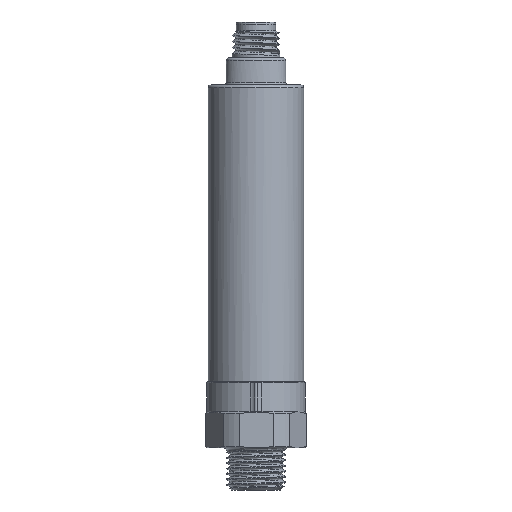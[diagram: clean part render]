
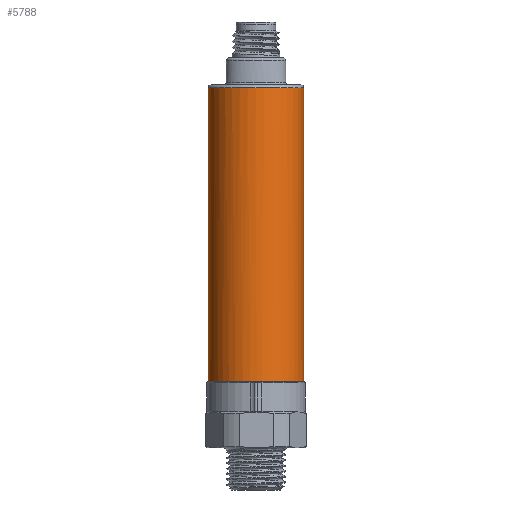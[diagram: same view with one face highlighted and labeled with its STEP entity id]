
A CAD part, front view. The second image highlights one B-rep face of the part: STEP entity #5788.
In plain terms, the highlighted cylindrical face has radius 8 mm (diameter 16 mm), a partial arc.
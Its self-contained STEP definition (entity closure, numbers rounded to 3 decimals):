
#164 = ORIENTED_EDGE ( 'NONE', *, *, #16945, .T. ) ;
#403 = VERTEX_POINT ( 'NONE', #15709 ) ;
#913 = DIRECTION ( 'NONE',  ( 0., 0., -1. ) ) ;
#916 = CARTESIAN_POINT ( 'NONE',  ( 8., 0., 2.5 ) ) ;
#987 = DIRECTION ( 'NONE',  ( 0., 0., -1. ) ) ;
#1255 = DIRECTION ( 'NONE',  ( 0., 0., 1. ) ) ;
#1323 = ORIENTED_EDGE ( 'NONE', *, *, #9717, .T. ) ;
#1394 = VERTEX_POINT ( 'NONE', #5515 ) ;
#1437 = CIRCLE ( 'NONE', #14735, 8. ) ;
#1589 = EDGE_CURVE ( 'NONE', #6901, #8266, #10037, .T. ) ;
#1830 = FACE_OUTER_BOUND ( 'NONE', #7667, .T. ) ;
#2059 = CARTESIAN_POINT ( 'NONE',  ( 8., 0., 2.6 ) ) ;
#2154 = EDGE_CURVE ( 'NONE', #12912, #2658, #10245, .T. ) ;
#2228 = CARTESIAN_POINT ( 'NONE',  ( 0.97, -7.941, 2.6 ) ) ;
#2337 = LINE ( 'NONE', #5951, #15654 ) ;
#2446 = CARTESIAN_POINT ( 'NONE',  ( 8., 0., 57. ) ) ;
#2495 = EDGE_CURVE ( 'NONE', #15980, #1394, #2337, .T. ) ;
#2511 = VERTEX_POINT ( 'NONE', #3365 ) ;
#2658 = VERTEX_POINT ( 'NONE', #2228 ) ;
#2699 = VERTEX_POINT ( 'NONE', #12950 ) ;
#2969 = ORIENTED_EDGE ( 'NONE', *, *, #2154, .T. ) ;
#2992 = AXIS2_PLACEMENT_3D ( 'NONE', #11661, #3679, #12998 ) ;
#3284 = CIRCLE ( 'NONE', #5505, 8. ) ;
#3365 = CARTESIAN_POINT ( 'NONE',  ( 8., 0., 7.4 ) ) ;
#3569 = EDGE_CURVE ( 'NONE', #12912, #5081, #13384, .T. ) ;
#3679 = DIRECTION ( 'NONE',  ( 0., 0., 1. ) ) ;
#3961 = DIRECTION ( 'NONE',  ( 0., 0., 1. ) ) ;
#4511 = ORIENTED_EDGE ( 'NONE', *, *, #3569, .F. ) ;
#4531 = DIRECTION ( 'NONE',  ( 0., 0., -1. ) ) ;
#4609 = DIRECTION ( 'NONE',  ( 0., 0., 1. ) ) ;
#4671 = VERTEX_POINT ( 'NONE', #12262 ) ;
#4732 = EDGE_CURVE ( 'NONE', #14654, #2511, #1437, .T. ) ;
#4786 = ORIENTED_EDGE ( 'NONE', *, *, #12344, .T. ) ;
#4828 = ORIENTED_EDGE ( 'NONE', *, *, #15813, .T. ) ;
#4880 = CIRCLE ( 'NONE', #2992, 8. ) ;
#5081 = VERTEX_POINT ( 'NONE', #916 ) ;
#5270 = CARTESIAN_POINT ( 'NONE',  ( 0., 0., 2.5 ) ) ;
#5362 = CARTESIAN_POINT ( 'NONE',  ( 0., 0., 2.5 ) ) ;
#5505 = AXIS2_PLACEMENT_3D ( 'NONE', #14179, #6186, #15504 ) ;
#5509 = AXIS2_PLACEMENT_3D ( 'NONE', #11563, #15616, #6296 ) ;
#5515 = CARTESIAN_POINT ( 'NONE',  ( -8., 0., 7.4 ) ) ;
#5788 = ADVANCED_FACE ( 'NONE', ( #1830 ), #8562, .T. ) ;
#5951 = CARTESIAN_POINT ( 'NONE',  ( -8., 0., 57. ) ) ;
#6143 = CIRCLE ( 'NONE', #7497, 8. ) ;
#6186 = DIRECTION ( 'NONE',  ( 0., 0., 1. ) ) ;
#6296 = DIRECTION ( 'NONE',  ( -1., 0., 0. ) ) ;
#6341 = ORIENTED_EDGE ( 'NONE', *, *, #7275, .T. ) ;
#6454 = DIRECTION ( 'NONE',  ( 0., 0., -1. ) ) ;
#6608 = DIRECTION ( 'NONE',  ( -1., 0., 0. ) ) ;
#6704 = DIRECTION ( 'NONE',  ( -1., 0., 0. ) ) ;
#6901 = VERTEX_POINT ( 'NONE', #9746 ) ;
#7200 = CIRCLE ( 'NONE', #10763, 8. ) ;
#7275 = EDGE_CURVE ( 'NONE', #403, #5081, #17225, .T. ) ;
#7307 = CARTESIAN_POINT ( 'NONE',  ( 8., 0., 57. ) ) ;
#7358 = DIRECTION ( 'NONE',  ( 0., 0., -1. ) ) ;
#7497 = AXIS2_PLACEMENT_3D ( 'NONE', #8931, #987, #10284 ) ;
#7667 = EDGE_LOOP ( 'NONE', ( #10344, #164, #14195, #4828, #14334, #9985, #7685, #4786, #11276, #1323, #6341, #4511, #2969, #12662, #9522 ) ) ;
#7685 = ORIENTED_EDGE ( 'NONE', *, *, #8273, .T. ) ;
#8034 = DIRECTION ( 'NONE',  ( 0., 0., -1. ) ) ;
#8055 = DIRECTION ( 'NONE',  ( -1., 0., 0. ) ) ;
#8113 = CARTESIAN_POINT ( 'NONE',  ( 0., 0., 2.6 ) ) ;
#8266 = VERTEX_POINT ( 'NONE', #9205 ) ;
#8273 = EDGE_CURVE ( 'NONE', #2699, #15412, #15346, .T. ) ;
#8562 = CYLINDRICAL_SURFACE ( 'NONE', #5509, 8. ) ;
#8863 = CARTESIAN_POINT ( 'NONE',  ( 0., 0., 56.5 ) ) ;
#8864 = LINE ( 'NONE', #2446, #15540 ) ;
#8931 = CARTESIAN_POINT ( 'NONE',  ( 0., 0., 2.6 ) ) ;
#9205 = CARTESIAN_POINT ( 'NONE',  ( -0.97, -7.941, 2.6 ) ) ;
#9213 = CARTESIAN_POINT ( 'NONE',  ( -6.868, -4.103, 2.5 ) ) ;
#9314 = CARTESIAN_POINT ( 'NONE',  ( -8., 0., 2.5 ) ) ;
#9522 = ORIENTED_EDGE ( 'NONE', *, *, #4732, .T. ) ;
#9717 = EDGE_CURVE ( 'NONE', #10035, #403, #11815, .T. ) ;
#9746 = CARTESIAN_POINT ( 'NONE',  ( -0.97, -7.941, 7.4 ) ) ;
#9985 = ORIENTED_EDGE ( 'NONE', *, *, #16394, .T. ) ;
#10035 = VERTEX_POINT ( 'NONE', #16514 ) ;
#10037 = LINE ( 'NONE', #10886, #16693 ) ;
#10210 = DIRECTION ( 'NONE',  ( -1., 0., 0. ) ) ;
#10245 = CIRCLE ( 'NONE', #17008, 8. ) ;
#10284 = DIRECTION ( 'NONE',  ( -1., 0., 0. ) ) ;
#10344 = ORIENTED_EDGE ( 'NONE', *, *, #15261, .F. ) ;
#10552 = CARTESIAN_POINT ( 'NONE',  ( -8., 0., 57. ) ) ;
#10761 = EDGE_CURVE ( 'NONE', #2658, #14654, #13040, .T. ) ;
#10763 = AXIS2_PLACEMENT_3D ( 'NONE', #8863, #913, #10210 ) ;
#10886 = CARTESIAN_POINT ( 'NONE',  ( -0.97, -7.941, 57. ) ) ;
#10954 = CIRCLE ( 'NONE', #14339, 8. ) ;
#11276 = ORIENTED_EDGE ( 'NONE', *, *, #13075, .T. ) ;
#11524 = DIRECTION ( 'NONE',  ( 0., 0., -1. ) ) ;
#11563 = CARTESIAN_POINT ( 'NONE',  ( 0., 0., 57. ) ) ;
#11661 = CARTESIAN_POINT ( 'NONE',  ( 0., 0., 2.5 ) ) ;
#11815 = CIRCLE ( 'NONE', #14000, 8. ) ;
#11875 = CARTESIAN_POINT ( 'NONE',  ( -8., 0., 56.5 ) ) ;
#11907 = DIRECTION ( 'NONE',  ( 0., 0., -1. ) ) ;
#11930 = CARTESIAN_POINT ( 'NONE',  ( 0., 0., 2.5 ) ) ;
#12032 = CARTESIAN_POINT ( 'NONE',  ( 0.97, -7.941, 57. ) ) ;
#12262 = CARTESIAN_POINT ( 'NONE',  ( 8., 0., 56.5 ) ) ;
#12344 = EDGE_CURVE ( 'NONE', #15412, #13771, #10954, .T. ) ;
#12563 = AXIS2_PLACEMENT_3D ( 'NONE', #5270, #14585, #6608 ) ;
#12587 = CARTESIAN_POINT ( 'NONE',  ( 0., 0., 7.4 ) ) ;
#12662 = ORIENTED_EDGE ( 'NONE', *, *, #10761, .T. ) ;
#12912 = VERTEX_POINT ( 'NONE', #2059 ) ;
#12950 = CARTESIAN_POINT ( 'NONE',  ( -8., 0., 2.6 ) ) ;
#12998 = DIRECTION ( 'NONE',  ( -1., 0., 0. ) ) ;
#13040 = LINE ( 'NONE', #12032, #16156 ) ;
#13075 = EDGE_CURVE ( 'NONE', #13771, #10035, #4880, .T. ) ;
#13260 = DIRECTION ( 'NONE',  ( -1., 0., 0. ) ) ;
#13384 = LINE ( 'NONE', #7307, #13791 ) ;
#13771 = VERTEX_POINT ( 'NONE', #9213 ) ;
#13791 = VECTOR ( 'NONE', #7358, 1000. ) ;
#13911 = DIRECTION ( 'NONE',  ( -1., 0., 0. ) ) ;
#14000 = AXIS2_PLACEMENT_3D ( 'NONE', #5362, #14684, #6704 ) ;
#14179 = CARTESIAN_POINT ( 'NONE',  ( 0., 0., 7.4 ) ) ;
#14195 = ORIENTED_EDGE ( 'NONE', *, *, #2495, .T. ) ;
#14334 = ORIENTED_EDGE ( 'NONE', *, *, #1589, .T. ) ;
#14339 = AXIS2_PLACEMENT_3D ( 'NONE', #11930, #3961, #13260 ) ;
#14585 = DIRECTION ( 'NONE',  ( 0., 0., 1. ) ) ;
#14654 = VERTEX_POINT ( 'NONE', #14679 ) ;
#14679 = CARTESIAN_POINT ( 'NONE',  ( 0.97, -7.941, 7.4 ) ) ;
#14684 = DIRECTION ( 'NONE',  ( 0., 0., 1. ) ) ;
#14735 = AXIS2_PLACEMENT_3D ( 'NONE', #12587, #4609, #13911 ) ;
#14944 = VECTOR ( 'NONE', #11907, 1000. ) ;
#15261 = EDGE_CURVE ( 'NONE', #4671, #2511, #8864, .T. ) ;
#15346 = LINE ( 'NONE', #10552, #14944 ) ;
#15412 = VERTEX_POINT ( 'NONE', #9314 ) ;
#15504 = DIRECTION ( 'NONE',  ( -1., 0., 0. ) ) ;
#15540 = VECTOR ( 'NONE', #6454, 1000. ) ;
#15616 = DIRECTION ( 'NONE',  ( 0., 0., -1. ) ) ;
#15654 = VECTOR ( 'NONE', #4531, 1000. ) ;
#15709 = CARTESIAN_POINT ( 'NONE',  ( 6.987, -3.896, 2.5 ) ) ;
#15813 = EDGE_CURVE ( 'NONE', #1394, #6901, #3284, .T. ) ;
#15980 = VERTEX_POINT ( 'NONE', #11875 ) ;
#16156 = VECTOR ( 'NONE', #1255, 1000. ) ;
#16394 = EDGE_CURVE ( 'NONE', #8266, #2699, #6143, .T. ) ;
#16514 = CARTESIAN_POINT ( 'NONE',  ( 0.119, -7.999, 2.5 ) ) ;
#16693 = VECTOR ( 'NONE', #11524, 1000. ) ;
#16945 = EDGE_CURVE ( 'NONE', #4671, #15980, #7200, .T. ) ;
#17008 = AXIS2_PLACEMENT_3D ( 'NONE', #8113, #8034, #8055 ) ;
#17225 = CIRCLE ( 'NONE', #12563, 8. ) ;
